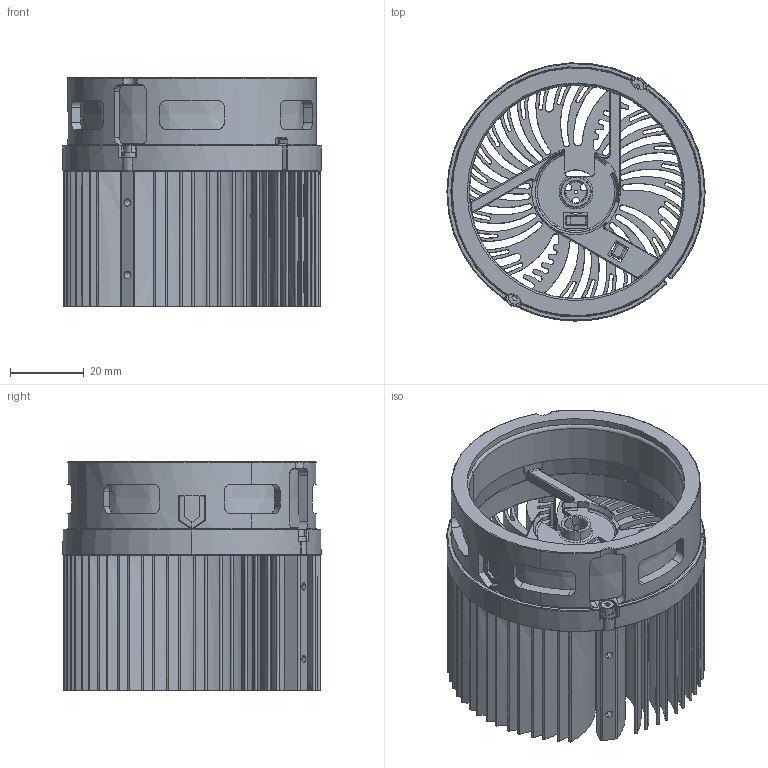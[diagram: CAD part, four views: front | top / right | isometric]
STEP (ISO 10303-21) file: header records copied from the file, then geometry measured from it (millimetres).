
FILE_DESCRIPTION(('CATIA V5 STEP Exchange'),'2;1');
FILE_NAME('C:\Dokumente und Einstellungen\516rue\Desktop\SK5700016612_000_B.stp','2012-03-07T09:36:44+00:00',('none'),('none'),'CATIA Version 5 Release 19 SP 3 (IN-10)','CATIA V5 STEP AP214','none');
FILE_SCHEMA(('AUTOMOTIVE_DESIGN { 1 0 10303 214 1 1 1 1 }'));
Products named in the file (6): SK5700016612_CPR_000_B; SK5700016612_CPA_030_B; 6294002012_000_C; SK5700016712_CPA_000_-; SK6001005606_000_-; SK5700082711_CPA_000_-
Assembly tree (7 placements, depth 2):
  SK5700016612_CPR_000_B
    SK5700016612_CPA_030_B
    6294002012_000_C
    SK5700016712_CPA_000_-  x2
    SK6001005606_000_-  x2
    SK5700082711_CPA_000_-
Bounding box: 70 x 69.98 x 61.85 mm (x, y, z)
Volume: 87541.2 mm3; surface area: 104025.1 mm2
Topology: 7 solids, 7 shells, 908 faces, 2543 edges, 1630 vertices
Faces by surface type: bspline 374, cylinder 215, plane 174, torus 104, cone 29, sphere 12
Entity records: 48179 total; most frequent: CARTESIAN_POINT 29484, ORIENTED_EDGE 4870, EDGE_CURVE 2435, DIRECTION 2090, VERTEX_POINT 1572, B_SPLINE_CURVE_WITH_KNOTS 1169, AXIS2_PLACEMENT_3D 1147, EDGE_LOOP 917
